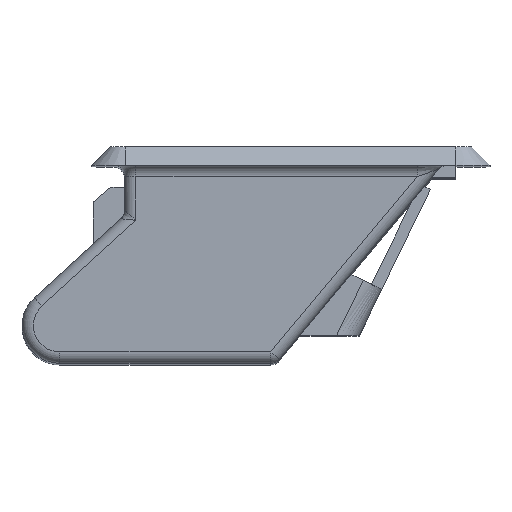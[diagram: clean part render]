
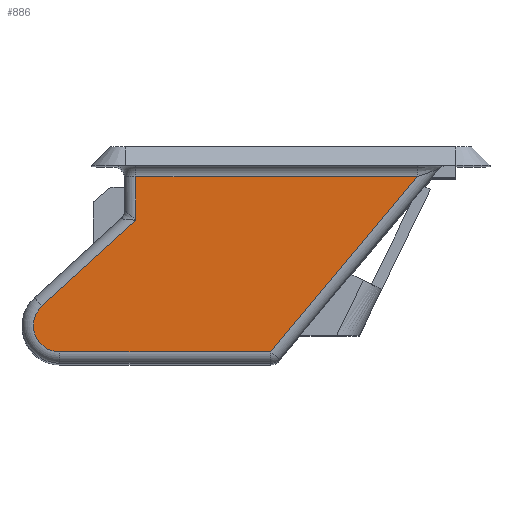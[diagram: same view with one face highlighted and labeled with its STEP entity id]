
A CAD part, top view. The second image highlights one B-rep face of the part: STEP entity #886.
In plain terms, the highlighted planar face has unit normal (0, 0, 1).
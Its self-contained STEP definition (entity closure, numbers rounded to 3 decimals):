
#125 = VERTEX_POINT ( 'NONE', #1713 ) ;
#151 = LINE ( 'NONE', #483, #3430 ) ;
#351 = ORIENTED_EDGE ( 'NONE', *, *, #3212, .T. ) ;
#357 = VECTOR ( 'NONE', #632, 1000. ) ;
#483 = CARTESIAN_POINT ( 'NONE',  ( -20.299, -18., 43.15 ) ) ;
#487 = DIRECTION ( 'NONE',  ( 0., -1., 0. ) ) ;
#595 = CARTESIAN_POINT ( 'NONE',  ( -13.6, -6.441, 43.15 ) ) ;
#632 = DIRECTION ( 'NONE',  ( -0.738, -0.674, 0. ) ) ;
#736 = CIRCLE ( 'NONE', #3500, 2.31 ) ;
#750 = CARTESIAN_POINT ( 'NONE',  ( 11.12, -2.6, 43.15 ) ) ;
#829 = VECTOR ( 'NONE', #487, 1000. ) ;
#886 = ADVANCED_FACE ( 'NONE', ( #1658 ), #2210, .T. ) ;
#956 = CARTESIAN_POINT ( 'NONE',  ( -21.858, -13.984, 43.15 ) ) ;
#973 = LINE ( 'NONE', #956, #357 ) ;
#977 = DIRECTION ( 'NONE',  ( 0., 0., 1. ) ) ;
#1027 = VERTEX_POINT ( 'NONE', #2678 ) ;
#1101 = DIRECTION ( 'NONE',  ( 1., 0., 0. ) ) ;
#1279 = DIRECTION ( 'NONE',  ( 1., 0., 0. ) ) ;
#1349 = VERTEX_POINT ( 'NONE', #750 ) ;
#1433 = EDGE_CURVE ( 'NONE', #1661, #2176, #151, .T. ) ;
#1582 = LINE ( 'NONE', #2197, #1674 ) ;
#1658 = FACE_OUTER_BOUND ( 'NONE', #3290, .T. ) ;
#1661 = VERTEX_POINT ( 'NONE', #2828 ) ;
#1674 = VECTOR ( 'NONE', #1925, 1000. ) ;
#1713 = CARTESIAN_POINT ( 'NONE',  ( -13.6, -2.6, 43.15 ) ) ;
#1714 = VERTEX_POINT ( 'NONE', #595 ) ;
#1925 = DIRECTION ( 'NONE',  ( 0.642, 0.767, 0. ) ) ;
#1945 = CARTESIAN_POINT ( 'NONE',  ( -20.299, -2.6, 43.15 ) ) ;
#1978 = DIRECTION ( 'NONE',  ( 0., 0., 1. ) ) ;
#2053 = EDGE_CURVE ( 'NONE', #1714, #1027, #973, .T. ) ;
#2176 = VERTEX_POINT ( 'NONE', #3879 ) ;
#2197 = CARTESIAN_POINT ( 'NONE',  ( -8.262, -25.762, 43.15 ) ) ;
#2210 = PLANE ( 'NONE',  #2441 ) ;
#2239 = LINE ( 'NONE', #1945, #2326 ) ;
#2326 = VECTOR ( 'NONE', #3201, 1000. ) ;
#2337 = ORIENTED_EDGE ( 'NONE', *, *, #3745, .T. ) ;
#2441 = AXIS2_PLACEMENT_3D ( 'NONE', #3545, #977, #1279 ) ;
#2674 = CARTESIAN_POINT ( 'NONE',  ( -20.299, -15.69, 43.15 ) ) ;
#2678 = CARTESIAN_POINT ( 'NONE',  ( -21.858, -13.984, 43.15 ) ) ;
#2810 = EDGE_CURVE ( 'NONE', #2176, #1349, #1582, .T. ) ;
#2828 = CARTESIAN_POINT ( 'NONE',  ( -20.299, -18., 43.15 ) ) ;
#2840 = EDGE_CURVE ( 'NONE', #1349, #125, #2239, .T. ) ;
#3201 = DIRECTION ( 'NONE',  ( -1., 0., 0. ) ) ;
#3212 = EDGE_CURVE ( 'NONE', #1027, #1661, #736, .T. ) ;
#3256 = DIRECTION ( 'NONE',  ( 1., 0., 0. ) ) ;
#3290 = EDGE_LOOP ( 'NONE', ( #3633, #3318, #3360, #2337, #3710, #351 ) ) ;
#3318 = ORIENTED_EDGE ( 'NONE', *, *, #2810, .T. ) ;
#3320 = CARTESIAN_POINT ( 'NONE',  ( -13.6, -15.69, 43.15 ) ) ;
#3360 = ORIENTED_EDGE ( 'NONE', *, *, #2840, .T. ) ;
#3430 = VECTOR ( 'NONE', #1101, 1000. ) ;
#3500 = AXIS2_PLACEMENT_3D ( 'NONE', #2674, #1978, #3256 ) ;
#3545 = CARTESIAN_POINT ( 'NONE',  ( -20.299, -15.69, 43.15 ) ) ;
#3625 = LINE ( 'NONE', #3320, #829 ) ;
#3633 = ORIENTED_EDGE ( 'NONE', *, *, #1433, .T. ) ;
#3710 = ORIENTED_EDGE ( 'NONE', *, *, #2053, .T. ) ;
#3745 = EDGE_CURVE ( 'NONE', #125, #1714, #3625, .T. ) ;
#3879 = CARTESIAN_POINT ( 'NONE',  ( -1.767, -18., 43.15 ) ) ;
